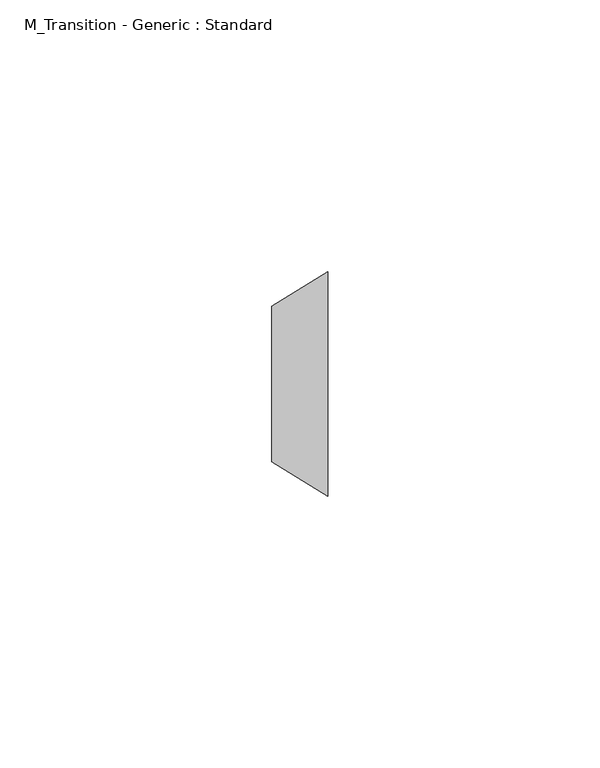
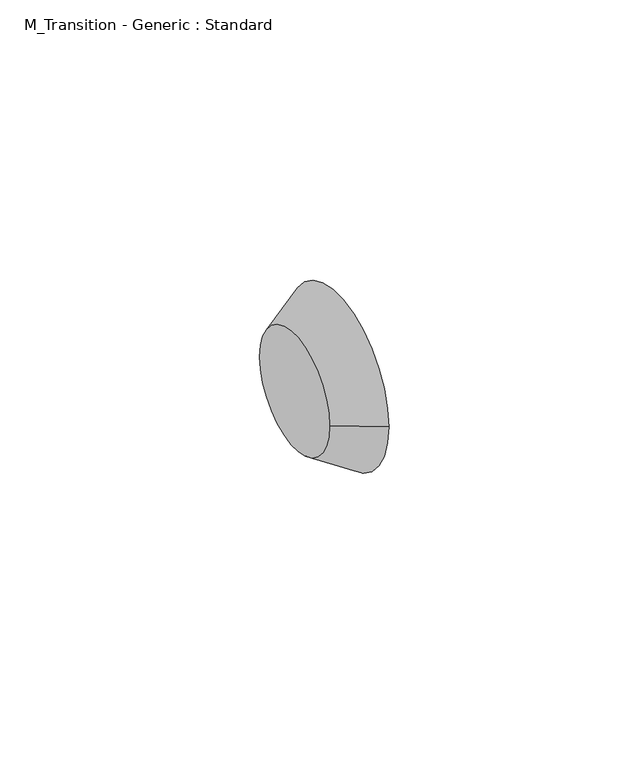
"""IFC4 building model written with IfcOpenShell, lengths in millimetres: pipe fitting geometry, M_Transition - Generic : Standard."""

from ifc_helpers import new_model, si_unit, frame, origin, place, context, project, spatial, polyline, circle_curve, source, transform, mapped, element, save
from ifc_brep_helpers import plane_surface, revolved_surface, advanced_brep


def m_transition_generic_standard_0e66ad51(model_context):
    return source(origin(), model_context, "Body", "AdvancedBrep", [
        advanced_brep(
        [(10.31875, -20.6375, 0.0), (10.31875, 20.6375, 0.0), (0.0, -14.2875, 0.0), (0.0, 14.2875, 0.0)],
        [
            (0, 1, circle_curve(frame((10.31875, 0.0, 0.0), z_axis=(1.0, 0.0, 0.0), x_axis=(0.0, -1.0, 0.0)), 20.6375)),
            (1, 0, circle_curve(frame((10.31875, 0.0, 0.0), z_axis=(1.0, 0.0, 0.0), x_axis=(0.0, 1.0, 0.0)), 20.6375)),
            (2, 3, circle_curve(frame((0.0, 0.0, 0.0), z_axis=(-1.0, 0.0, 0.0), x_axis=(0.0, 1.0, 0.0)), 14.2875)),
            (3, 2, circle_curve(frame((0.0, 0.0, 0.0), z_axis=(-1.0, 0.0, 0.0), x_axis=(0.0, -1.0, 0.0)), 14.2875)),
            (3, 1),
            (0, 2),
        ],
        [
            plane_surface(frame((10.31875, 0.0, 0.0), z_axis=(1.0, 0.0, 0.0), x_axis=(0.0, 0.0, -1.0))),
            plane_surface(frame((0.0, 0.0, 0.0), z_axis=(-1.0, 0.0, 0.0), x_axis=(0.0, 0.0, -1.0))),
            revolved_surface(polyline([(0.0, 14.2875, 0.0), (10.318750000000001, 20.6375, 0.0)]), (-23.2171875, 0.0, 0.0), (1.0, 0.0, 0.0)),
            revolved_surface(polyline([(0.0, -14.2875, 0.0), (10.318750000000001, -20.6375, 0.0)]), (-23.2171875, 0.0, 0.0), (1.0, 0.0, 0.0)),
        ],
        [
            (0, [[1, 2]]),
            (1, [[3, 4]]),
            (2, [[-4, 5, -1, 6]]),
            (3, [[-3, -6, -2, -5]]),
        ],
    ),
    ])


if __name__ == "__main__":
    model = new_model("IFC4")
    model_context = context("Model", 3, world=origin())
    ifc_project = project(units=[si_unit("LENGTHUNIT", "METRE", prefix="MILLI")], contexts=[model_context])
    site = spatial("IfcSite", under=ifc_project)
    building = spatial("IfcBuilding", under=site)
    placement = place(None, origin())
    m_transition_generic_standard_shape = m_transition_generic_standard_0e66ad51(model_context)
    element("IfcPipeFitting", 1, ObjectType="M_Transition - Generic : Standard", at=placement, inside=building, context=model_context, shape_type="MappedRepresentation", body=[
        mapped(m_transition_generic_standard_shape, transform((0.0, 0.0, 0.0), x_axis=(1.0, 0.0, 0.0), y_axis=(0.0, 1.0, 0.0), z_axis=(0.0, 0.0, 1.0))),
    ])
    save(model, "model.ifc")
